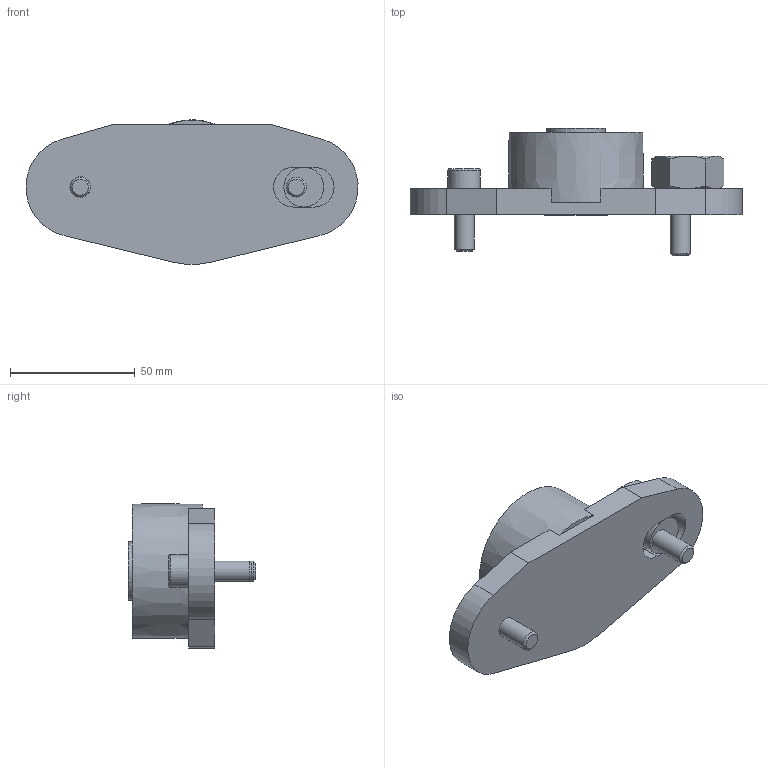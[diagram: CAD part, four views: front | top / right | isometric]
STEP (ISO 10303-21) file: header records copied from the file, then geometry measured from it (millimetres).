
FILE_DESCRIPTION( ( 'STEP AP203' ), '1' );
FILE_NAME( 'p:/temp/worker_133/temp/exporttempdir_5812_1328_GNElS/format_0/BHR54E.stp', '2021-09-29T07:20:37', ( 'License CC BY-ND 4.0' ), ( 'CADENAS' ), ' ', 'PARTsolutions', ' ' );
FILE_SCHEMA( ( 'CONFIG_CONTROL_DESIGN' ) );
Length unit declared in the file: millimetre
Products named in the file (4): BHR54E; _BHR54E_E; HI_DIN912-M8x25; _BHR54E_SE
Assembly tree (3 placements, depth 2):
  BHR54E
    _BHR54E_E
    HI_DIN912-M8x25
    _BHR54E_SE
Bounding box: 132.91 x 51.1 x 57.88 mm (x, y, z)
Volume: 122228.4 mm3; surface area: 24088.5 mm2
Topology: 3 solids, 3 shells, 90 faces, 206 edges, 129 vertices
Faces by surface type: plane 52, cone 22, cylinder 12, torus 3, bspline 1
Full cylindrical faces by diameter (mm): 8 x2, 8.25 x1, 13 x2, 16 x1, 23.5 x1
Entity records: 2722 total; most frequent: CARTESIAN_POINT 638, DIRECTION 400, ORIENTED_EDGE 378, EDGE_CURVE 189, AXIS2_PLACEMENT_3D 150, VERTEX_POINT 128, EDGE_LOOP 116, FACE_OUTER_BOUND 101
